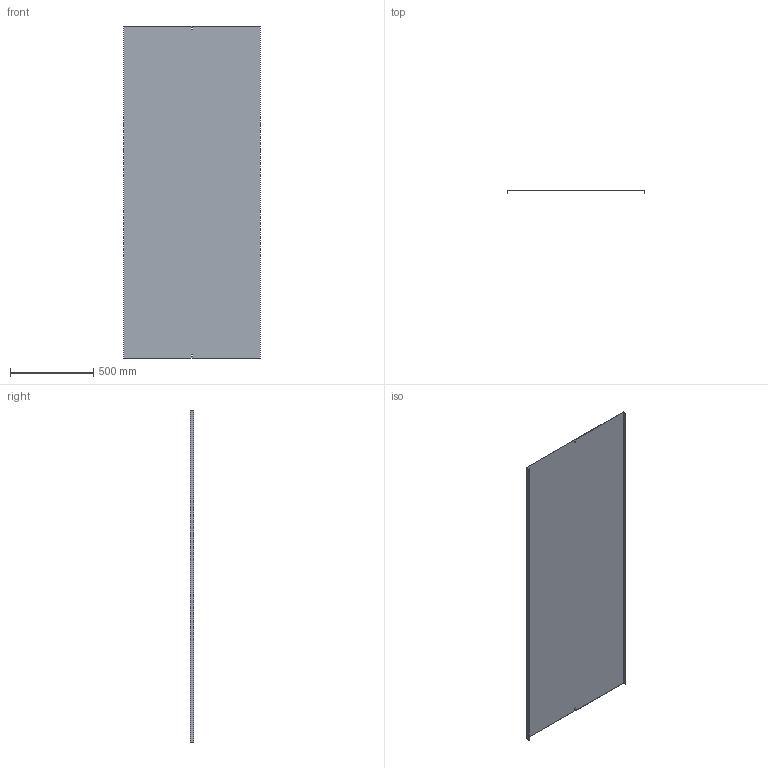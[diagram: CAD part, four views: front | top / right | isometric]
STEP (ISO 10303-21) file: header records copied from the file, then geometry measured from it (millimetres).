
FILE_DESCRIPTION (( 'STEP AP214' ), '1' );
FILE_NAME ('05G2P800.step', '2025-02-21T14:22:08', ( '' ), ( '' ), 'SwSTEP 2.0', 'SolidWorks 2023', '' );
FILE_SCHEMA (( 'AUTOMOTIVE_DESIGN' ));
Length unit declared in the file: millimetre
Products named in the file (1): 05G2P800
Bounding box: 823 x 20 x 2000 mm (x, y, z)
Volume: 2579824.5 mm3; surface area: 3448439 mm2
Topology: 1 solids, 1 shells, 18 faces, 48 edges, 32 vertices
Faces by surface type: plane 18
Entity records: 583 total; most frequent: CARTESIAN_POINT 99, ORIENTED_EDGE 96, DIRECTION 86, LINE 48, EDGE_CURVE 48, VECTOR 48, VERTEX_POINT 32, EDGE_LOOP 22
